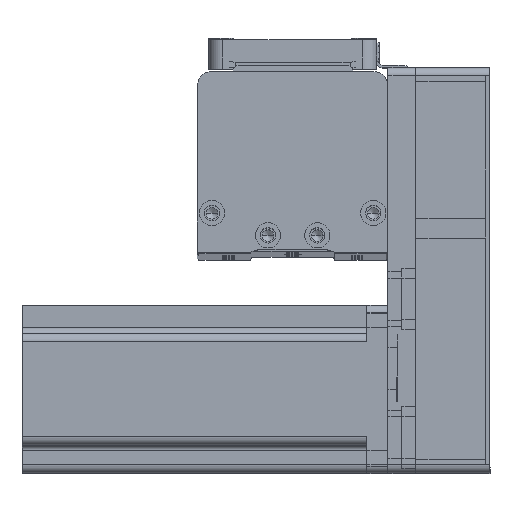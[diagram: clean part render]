
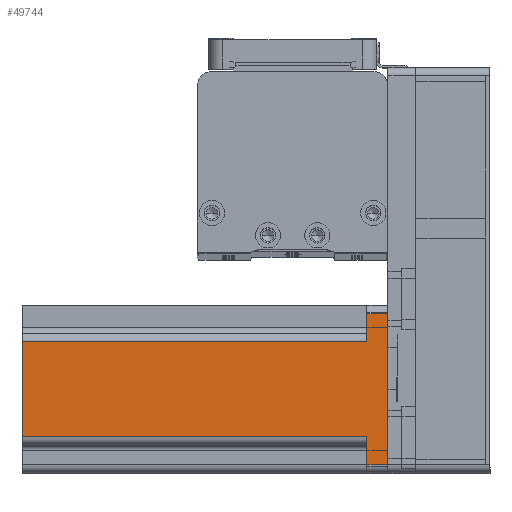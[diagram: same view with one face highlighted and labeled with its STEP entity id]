
A CAD part, top view. The second image highlights one B-rep face of the part: STEP entity #49744.
In plain terms, the highlighted planar face has unit normal (0, 0, 1) as drawn and (0, 1, 0) by its records, which use the part's own axes.
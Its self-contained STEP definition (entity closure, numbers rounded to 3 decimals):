
#965 = EDGE_CURVE ( 'NONE', #37090, #45323, #26845, .T. ) ;
#1035 = DIRECTION ( 'NONE',  ( -1., 0., 0. ) ) ;
#1114 = PLANE ( 'NONE',  #8531 ) ;
#1280 = EDGE_CURVE ( 'NONE', #45466, #33426, #32975, .T. ) ;
#1377 = ORIENTED_EDGE ( 'NONE', *, *, #9748, .T. ) ;
#1864 = LINE ( 'NONE', #28053, #13711 ) ;
#1923 = CARTESIAN_POINT ( 'NONE',  ( -27., 30., 130.7 ) ) ;
#2364 = LINE ( 'NONE', #49386, #11676 ) ;
#2990 = CARTESIAN_POINT ( 'NONE',  ( -17., 30., 130.7 ) ) ;
#3259 = ORIENTED_EDGE ( 'NONE', *, *, #26987, .T. ) ;
#3544 = DIRECTION ( 'NONE',  ( -1., 0., 0. ) ) ;
#4346 = ORIENTED_EDGE ( 'NONE', *, *, #21053, .F. ) ;
#5288 = CARTESIAN_POINT ( 'NONE',  ( -27., 30., 0. ) ) ;
#8531 = AXIS2_PLACEMENT_3D ( 'NONE', #41251, #17456, #45300 ) ;
#9748 = EDGE_CURVE ( 'NONE', #35812, #24256, #43164, .T. ) ;
#9804 = LINE ( 'NONE', #12350, #40276 ) ;
#9937 = DIRECTION ( 'NONE',  ( 0., 0., 1. ) ) ;
#11207 = CARTESIAN_POINT ( 'NONE',  ( -17., 30., 130.7 ) ) ;
#11676 = VECTOR ( 'NONE', #29528, 1000. ) ;
#11851 = VECTOR ( 'NONE', #50572, 1000. ) ;
#12127 = CARTESIAN_POINT ( 'NONE',  ( -17., 30., 7.5 ) ) ;
#12283 = ORIENTED_EDGE ( 'NONE', *, *, #29480, .F. ) ;
#12350 = CARTESIAN_POINT ( 'NONE',  ( 30., 30., 130.7 ) ) ;
#13711 = VECTOR ( 'NONE', #39891, 1000. ) ;
#13826 = VECTOR ( 'NONE', #18450, 1000. ) ;
#14956 = CARTESIAN_POINT ( 'NONE',  ( 17., 30., 7.5 ) ) ;
#17246 = ORIENTED_EDGE ( 'NONE', *, *, #965, .T. ) ;
#17456 = DIRECTION ( 'NONE',  ( 0., -1., 0. ) ) ;
#18450 = DIRECTION ( 'NONE',  ( 0., 0., -1. ) ) ;
#18925 = CARTESIAN_POINT ( 'NONE',  ( 27., 30., 0. ) ) ;
#19860 = LINE ( 'NONE', #51127, #30394 ) ;
#21053 = EDGE_CURVE ( 'NONE', #23411, #33426, #9804, .T. ) ;
#23411 = VERTEX_POINT ( 'NONE', #48957 ) ;
#24256 = VERTEX_POINT ( 'NONE', #51014 ) ;
#24334 = DIRECTION ( 'NONE',  ( -1., 0., 0. ) ) ;
#26381 = CARTESIAN_POINT ( 'NONE',  ( 27., 30., 7.5 ) ) ;
#26483 = EDGE_CURVE ( 'NONE', #45323, #35812, #19860, .T. ) ;
#26845 = LINE ( 'NONE', #50230, #13826 ) ;
#26987 = EDGE_CURVE ( 'NONE', #23411, #32789, #2364, .T. ) ;
#28053 = CARTESIAN_POINT ( 'NONE',  ( -20., 30., 7.5 ) ) ;
#29480 = EDGE_CURVE ( 'NONE', #37090, #32789, #31395, .T. ) ;
#29528 = DIRECTION ( 'NONE',  ( 0., 0., -1. ) ) ;
#30275 = ORIENTED_EDGE ( 'NONE', *, *, #26483, .T. ) ;
#30394 = VECTOR ( 'NONE', #3544, 1000. ) ;
#31395 = LINE ( 'NONE', #37223, #40759 ) ;
#31744 = EDGE_CURVE ( 'NONE', #24256, #45466, #1864, .T. ) ;
#31823 = ORIENTED_EDGE ( 'NONE', *, *, #1280, .T. ) ;
#32509 = VECTOR ( 'NONE', #9937, 1000. ) ;
#32789 = VERTEX_POINT ( 'NONE', #14956 ) ;
#32975 = LINE ( 'NONE', #2990, #11851 ) ;
#33426 = VERTEX_POINT ( 'NONE', #11207 ) ;
#35812 = VERTEX_POINT ( 'NONE', #5288 ) ;
#37090 = VERTEX_POINT ( 'NONE', #26381 ) ;
#37223 = CARTESIAN_POINT ( 'NONE',  ( 20., 30., 7.5 ) ) ;
#39891 = DIRECTION ( 'NONE',  ( 1., 0., 0. ) ) ;
#40276 = VECTOR ( 'NONE', #24334, 1000. ) ;
#40759 = VECTOR ( 'NONE', #1035, 1000. ) ;
#41251 = CARTESIAN_POINT ( 'NONE',  ( 30., 30., 130.7 ) ) ;
#43164 = LINE ( 'NONE', #1923, #32509 ) ;
#45300 = DIRECTION ( 'NONE',  ( 1., 0., 0. ) ) ;
#45323 = VERTEX_POINT ( 'NONE', #18925 ) ;
#45466 = VERTEX_POINT ( 'NONE', #12127 ) ;
#45907 = EDGE_LOOP ( 'NONE', ( #51565, #31823, #4346, #3259, #12283, #17246, #30275, #1377 ) ) ;
#48957 = CARTESIAN_POINT ( 'NONE',  ( 17., 30., 130.7 ) ) ;
#49386 = CARTESIAN_POINT ( 'NONE',  ( 17., 30., 130.7 ) ) ;
#49744 = ADVANCED_FACE ( 'NONE', ( #50025 ), #1114, .F. ) ;
#50025 = FACE_OUTER_BOUND ( 'NONE', #45907, .T. ) ;
#50230 = CARTESIAN_POINT ( 'NONE',  ( 27., 30., 130.7 ) ) ;
#50572 = DIRECTION ( 'NONE',  ( 0., 0., 1. ) ) ;
#51014 = CARTESIAN_POINT ( 'NONE',  ( -27., 30., 7.5 ) ) ;
#51127 = CARTESIAN_POINT ( 'NONE',  ( 30., 30., 0. ) ) ;
#51565 = ORIENTED_EDGE ( 'NONE', *, *, #31744, .T. ) ;
